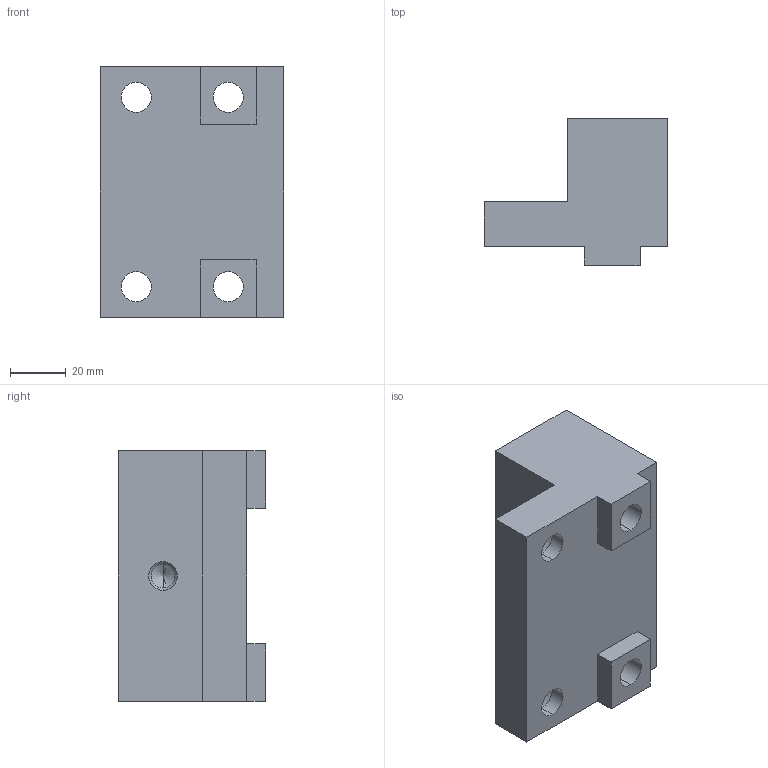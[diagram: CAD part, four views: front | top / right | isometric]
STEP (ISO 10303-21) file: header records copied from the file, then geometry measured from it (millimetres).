
FILE_DESCRIPTION (( 'STEP AP203' ), '1' );
FILE_NAME ('6921674012240.STEP', '2008-12-15T09:24:39', ( ' ' ), ( '' ), 'SwSTEP 2.0', 'SolidWorks 2008', '' );
FILE_SCHEMA (( 'CONFIG_CONTROL_DESIGN' ));
Length unit declared in the file: millimetre
Products named in the file (2): 6921674012240_Kundenmodell; 6921674012240
Assembly tree (1 placements, depth 2):
  6921674012240
    6921674012240_Kundenmodell
Bounding box: 66 x 52.8 x 90 mm (x, y, z)
Volume: 175951.7 mm3; surface area: 31436.1 mm2
Topology: 1 solids, 1 shells, 48 faces, 118 edges, 74 vertices
Faces by surface type: cylinder 20, plane 20, cone 8
Entity records: 1606 total; most frequent: DIRECTION 262, CARTESIAN_POINT 240, ORIENTED_EDGE 228, EDGE_CURVE 114, AXIS2_PLACEMENT_3D 96, VERTEX_POINT 74, VECTOR 70, LINE 70
